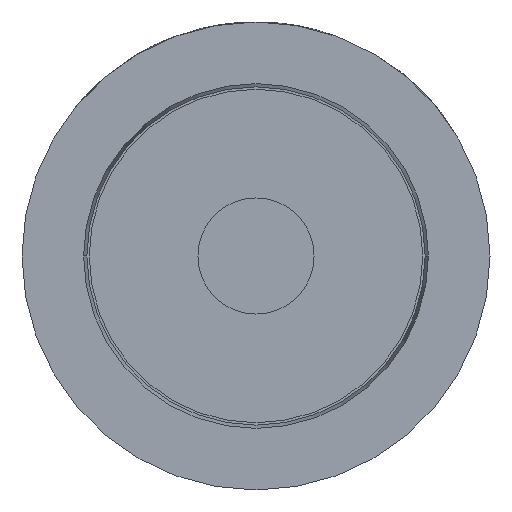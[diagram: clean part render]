
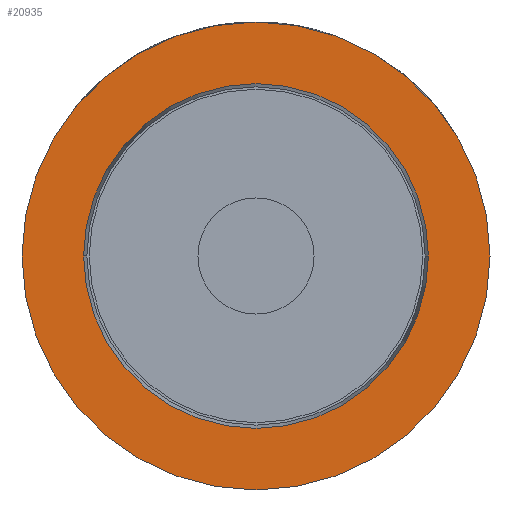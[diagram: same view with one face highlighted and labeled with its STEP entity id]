
A CAD part, left-side view. The second image highlights one B-rep face of the part: STEP entity #20935.
In plain terms, the highlighted planar face has unit normal (-1, 0, 0).
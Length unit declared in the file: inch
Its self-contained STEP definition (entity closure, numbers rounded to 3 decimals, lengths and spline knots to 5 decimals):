
#319 = CARTESIAN_POINT ( 'NONE',  ( 0., -0.046, 0. ) ) ;
#1218 = AXIS2_PLACEMENT_3D ( 'NONE', #1680, #19716, #9109 ) ;
#1457 = CIRCLE ( 'NONE', #1825, 0.06245 ) ;
#1617 = EDGE_CURVE ( 'NONE', #19766, #13627, #10964, .T. ) ;
#1664 = CARTESIAN_POINT ( 'NONE',  ( 0., 0., 0. ) ) ;
#1680 = CARTESIAN_POINT ( 'NONE',  ( 0., 0., 0. ) ) ;
#1825 = AXIS2_PLACEMENT_3D ( 'NONE', #1664, #20098, #4675 ) ;
#2306 = DIRECTION ( 'NONE',  ( -1., 0., 0. ) ) ;
#2526 = PLANE ( 'NONE',  #17077 ) ;
#3800 = CARTESIAN_POINT ( 'NONE',  ( 0., 0., 0. ) ) ;
#3934 = DIRECTION ( 'NONE',  ( 0., -1., 0. ) ) ;
#4539 = CARTESIAN_POINT ( 'NONE',  ( 0., -0.06245, 0. ) ) ;
#4675 = DIRECTION ( 'NONE',  ( 0., -1., 0. ) ) ;
#5965 = CARTESIAN_POINT ( 'NONE',  ( 0., 0.046, 0. ) ) ;
#6595 = CIRCLE ( 'NONE', #21284, 0.06245 ) ;
#7679 = FACE_BOUND ( 'NONE', #17621, .T. ) ;
#8756 = EDGE_CURVE ( 'NONE', #13627, #19766, #19578, .T. ) ;
#9109 = DIRECTION ( 'NONE',  ( 0., -1., 0. ) ) ;
#9290 = ORIENTED_EDGE ( 'NONE', *, *, #1617, .F. ) ;
#10578 = VERTEX_POINT ( 'NONE', #15529 ) ;
#10640 = CARTESIAN_POINT ( 'NONE',  ( 0., 0.046, 0. ) ) ;
#10964 = CIRCLE ( 'NONE', #16866, 0.046 ) ;
#11015 = DIRECTION ( 'NONE',  ( 1., 0., 0. ) ) ;
#11368 = ORIENTED_EDGE ( 'NONE', *, *, #8756, .F. ) ;
#11745 = EDGE_CURVE ( 'NONE', #10578, #17728, #6595, .T. ) ;
#13627 = VERTEX_POINT ( 'NONE', #10640 ) ;
#14694 = FACE_OUTER_BOUND ( 'NONE', #20321, .T. ) ;
#15529 = CARTESIAN_POINT ( 'NONE',  ( 0., 0.06245, 0. ) ) ;
#15563 = EDGE_CURVE ( 'NONE', #17728, #10578, #1457, .T. ) ;
#15909 = CARTESIAN_POINT ( 'NONE',  ( 0., 0., 0. ) ) ;
#15995 = DIRECTION ( 'NONE',  ( 0., -1., 0. ) ) ;
#16866 = AXIS2_PLACEMENT_3D ( 'NONE', #15909, #21536, #3934 ) ;
#17077 = AXIS2_PLACEMENT_3D ( 'NONE', #5965, #11015, #18150 ) ;
#17621 = EDGE_LOOP ( 'NONE', ( #9290, #11368 ) ) ;
#17728 = VERTEX_POINT ( 'NONE', #4539 ) ;
#18150 = DIRECTION ( 'NONE',  ( 0., 1., 0. ) ) ;
#19578 = CIRCLE ( 'NONE', #1218, 0.046 ) ;
#19716 = DIRECTION ( 'NONE',  ( -1., 0., 0. ) ) ;
#19766 = VERTEX_POINT ( 'NONE', #319 ) ;
#20098 = DIRECTION ( 'NONE',  ( -1., 0., 0. ) ) ;
#20164 = ORIENTED_EDGE ( 'NONE', *, *, #15563, .T. ) ;
#20321 = EDGE_LOOP ( 'NONE', ( #20164, #20739 ) ) ;
#20739 = ORIENTED_EDGE ( 'NONE', *, *, #11745, .T. ) ;
#20935 = ADVANCED_FACE ( 'NONE', ( #7679, #14694 ), #2526, .F. ) ;
#21284 = AXIS2_PLACEMENT_3D ( 'NONE', #3800, #2306, #15995 ) ;
#21536 = DIRECTION ( 'NONE',  ( -1., 0., 0. ) ) ;
